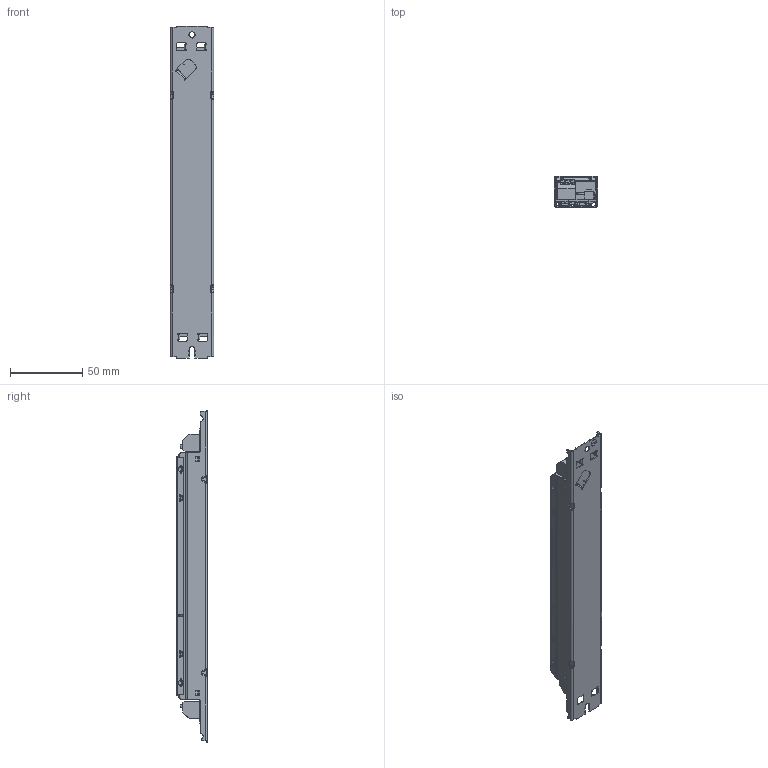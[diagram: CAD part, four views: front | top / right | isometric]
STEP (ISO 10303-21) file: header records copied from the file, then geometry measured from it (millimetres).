
FILE_DESCRIPTION((''),'2;1');
FILE_NAME('15014921Z_DATAMEC_280X30X21','2022-01-26T11:09:45',('elon.guo'),(''),'CREO PARAMETRIC BY PTC INC, 2021184','CREO PARAMETRIC BY PTC INC, 2021184','');
FILE_SCHEMA(('CONFIG_CONTROL_DESIGN'));
Products named in the file (1): 15014921Z_DATAMEC_280X30X21
Bounding box: 30 x 21.41 x 230 mm (x, y, z)
Volume: 41796.3 mm3; surface area: 66533.9 mm2
Topology: 4 solids, 6 shells, 2031 faces, 5409 edges, 3448 vertices
Faces by surface type: plane 1181, cylinder 592, bspline 162, torus 48, sphere 26, cone 20, extrusion 2
Entity records: 70366 total; most frequent: CARTESIAN_POINT 19948, ORIENTED_EDGE 10754, DIRECTION 10180, EDGE_CURVE 5377, VERTEX_POINT 3448, VECTOR 3422, LINE 3420, AXIS2_PLACEMENT_3D 3379
